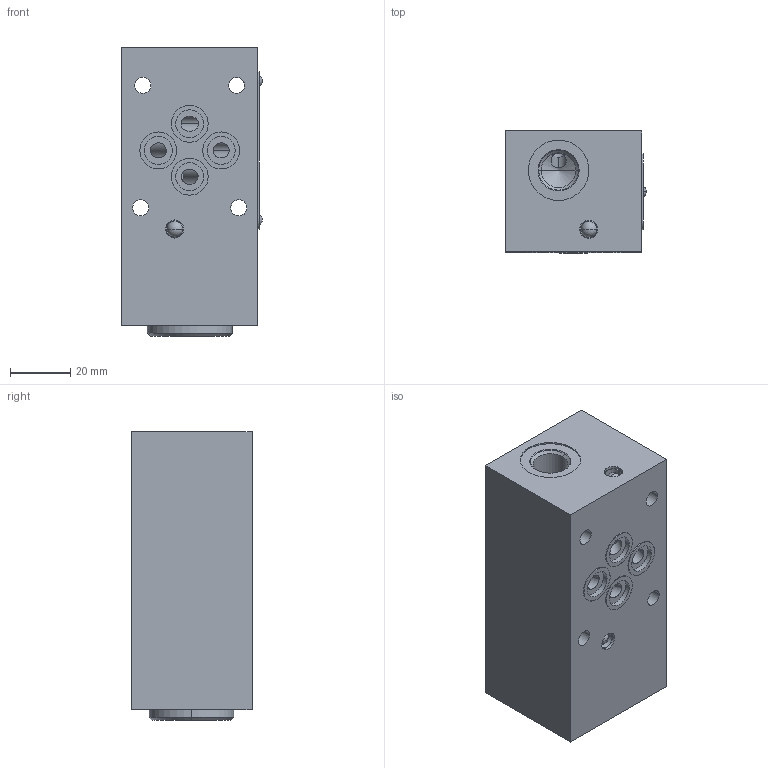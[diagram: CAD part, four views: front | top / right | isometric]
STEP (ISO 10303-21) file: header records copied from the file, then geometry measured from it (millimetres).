
FILE_DESCRIPTION((''),'2;1');
FILE_NAME('531_9800_ASM','2016-04-04T',('d.helta'),(''),'PRO/ENGINEER BY PARAMETRIC TECHNOLOGY CORPORATION, 2015110','PRO/ENGINEER BY PARAMETRIC TECHNOLOGY CORPORATION, 2015110','');
FILE_SCHEMA(('AUTOMOTIVE_DESIGN { 1 0 10303 214 1 1 1 1 }'));
Length unit declared in the file: millimetre
Products named in the file (9): 531_3030; MB800-060; DKAR00012_AF0; DKAR00012_AF1; DKAR00012_AF2; DKAR00012_AF3; STITEK_25X52_HYT; LV1_063_227381; 531_9800_ASM
Assembly tree (9 placements, depth 2):
  531_9800_ASM
    531_3030
    MB800-060  x2
    DKAR00012_AF0
    DKAR00012_AF1
    DKAR00012_AF2
    DKAR00012_AF3
    STITEK_25X52_HYT
    LV1_063_227381
Bounding box: 46.5 x 40.28 x 95.5 mm (x, y, z)
Volume: 149859.3 mm3; surface area: 41413 mm2
Topology: 9 solids, 12 shells, 345 faces, 1134 edges, 845 vertices
Faces by surface type: cylinder 162, cone 112, plane 63, sphere 8
Entity records: 18954 total; most frequent: CARTESIAN_POINT 5048, DIRECTION 1885, ORIENTED_EDGE 1470, PRESENTATION_STYLE_ASSIGNMENT 1155, STYLED_ITEM 1155, CURVE_STYLE 883, EDGE_CURVE 741, AXIS2_PLACEMENT_3D 652
